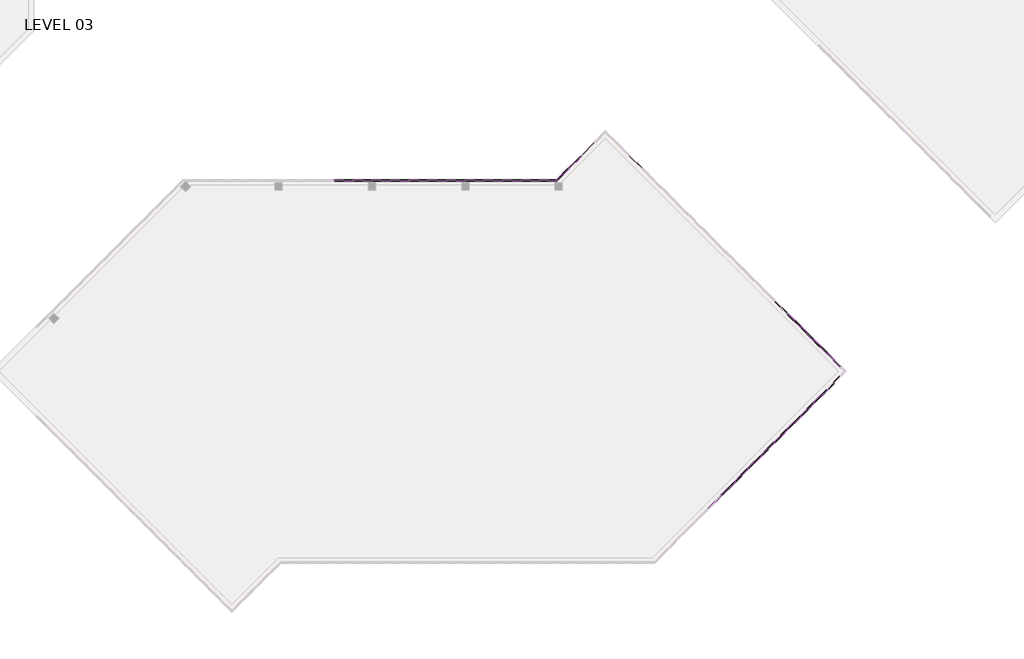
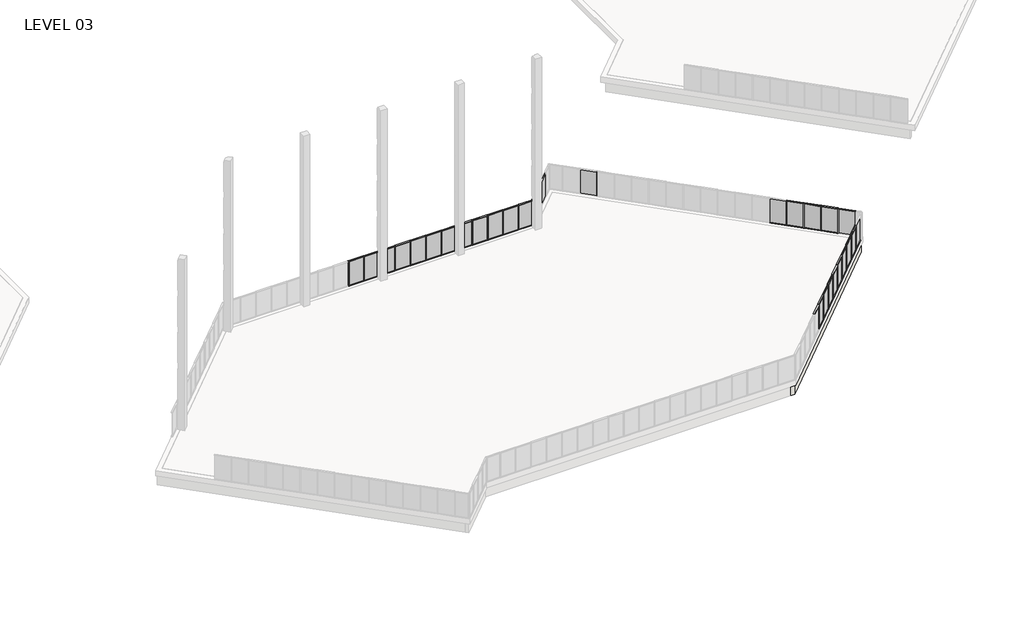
# One storey, part 8 of 18: 81 members, 30 plates, 3 walls.
"""IFC4 building model written with IfcOpenShell, lengths in millimetres."""

from ifc_helpers import new_model, si_unit, origin, place, context, project, spatial, faceted_brep, transform, mapped, element, save
from components import member_5247f267, member_e44af9ab, member_800970d4, member_45eb7f2e, plate_67294edd, plate_9c66726c, plate_129ab9d0

model = new_model("IFC4")

# Units and contexts
model_context = context("Model", 3, world=origin())
ifc_project = project(units=[si_unit("LENGTHUNIT", "METRE", prefix="MILLI")], contexts=[model_context])

# Site, building, storey
site = spatial("IfcSite", under=ifc_project)
building = spatial("IfcBuilding", under=site)
storey = spatial("IfcBuildingStorey", under=building, Name="LEVEL 03", Elevation=8280.4)

# Members
placement = place(None, origin())
member_shape = member_5247f267(model_context)
element("IfcMember", 1, ObjectType="Rectangular Mullion : 2\" x 4.5\" rectangular", at=placement, inside=storey, context=model_context, shape_type="MappedRepresentation", body=[
    mapped(member_shape, transform((22993.35, 26080.1328721, 8280.4), x_axis=(0.0, 0.0, -1.0), y_axis=(0.0, -1.0, 0.0), z_axis=(-1.0, 0.0, 0.0))),
])
element("IfcMember", 2, ObjectType="Rectangular Mullion : 2\" x 4.5\" rectangular", at=placement, inside=storey, context=model_context, shape_type="MappedRepresentation", body=[
    mapped(member_shape, transform((24517.35, 26080.1328721, 8280.4), x_axis=(0.0, 0.0, -1.0), y_axis=(0.0, -1.0, 0.0), z_axis=(-1.0, 0.0, 0.0))),
])
element("IfcMember", 3, ObjectType="Rectangular Mullion : 2\" x 4.5\" rectangular", at=placement, inside=storey, context=model_context, shape_type="MappedRepresentation", body=[
    mapped(member_shape, transform((27565.35, 26080.1328721, 8280.4), x_axis=(0.0, 0.0, -1.0), y_axis=(0.0, -1.0, 0.0), z_axis=(-1.0, 0.0, 0.0))),
])
element("IfcMember", 4, ObjectType="Rectangular Mullion : 2\" x 4.5\" rectangular", at=placement, inside=storey, context=model_context, shape_type="MappedRepresentation", body=[
    mapped(member_shape, transform((29089.35, 26080.1328721, 8280.4), x_axis=(0.0, 0.0, -1.0), y_axis=(0.0, -1.0, 0.0), z_axis=(-1.0, 0.0, 0.0))),
])
element("IfcMember", 5, ObjectType="Rectangular Mullion : 2\" x 4.5\" rectangular", at=placement, inside=storey, context=model_context, shape_type="MappedRepresentation", body=[
    mapped(member_shape, transform((30613.35, 26080.1328721, 8280.4), x_axis=(0.0, 0.0, -1.0), y_axis=(0.0, -1.0, 0.0), z_axis=(-1.0, 0.0, 0.0))),
])
element("IfcMember", 6, ObjectType="Rectangular Mullion : 2\" x 4.5\" rectangular", at=placement, inside=storey, context=model_context, shape_type="MappedRepresentation", body=[
    mapped(member_shape, transform((32137.35, 26080.1328721, 8280.4), x_axis=(0.0, 0.0, -1.0), y_axis=(0.0, -1.0, 0.0), z_axis=(-1.0, 0.0, 0.0))),
])
element("IfcMember", 7, ObjectType="Rectangular Mullion : 2\" x 4.5\" rectangular", at=placement, inside=storey, context=model_context, shape_type="MappedRepresentation", body=[
    mapped(member_shape, transform((35185.35, 26080.1328721, 8280.4), x_axis=(0.0, 0.0, -1.0), y_axis=(0.0, -1.0, 0.0), z_axis=(-1.0, 0.0, 0.0))),
])
element("IfcMember", 8, ObjectType="Rectangular Mullion : 2\" x 4.5\" rectangular", at=placement, inside=storey, context=model_context, shape_type="MappedRepresentation", body=[
    mapped(member_shape, transform((36709.35, 26080.1328721, 8280.4), x_axis=(0.0, 0.0, -1.0), y_axis=(0.0, -1.0, 0.0), z_axis=(-1.0, 0.0, 0.0))),
])
element("IfcMember", 9, ObjectType="Rectangular Mullion : 2\" x 4.5\" rectangular", at=placement, inside=storey, context=model_context, shape_type="MappedRepresentation", body=[
    mapped(member_shape, transform((38233.35, 26080.1328721, 8280.4), x_axis=(0.0, 0.0, -1.0), y_axis=(0.0, -1.0, 0.0), z_axis=(-1.0, 0.0, 0.0))),
])
element("IfcMember", 10, ObjectType="Rectangular Mullion : 2\" x 4.5\" rectangular", at=placement, inside=storey, context=model_context, shape_type="MappedRepresentation", body=[
    mapped(member_shape, transform((55642.3943146, 1508.7210511, 8280.4), x_axis=(0.0, 0.0, -1.0), y_axis=(0.7071067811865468, -0.7071067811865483, 0.0), z_axis=(-0.7071067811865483, -0.7071067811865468, 0.0))),
])
element("IfcMember", 11, ObjectType="Rectangular Mullion : 2\" x 4.5\" rectangular", at=placement, inside=storey, context=model_context, shape_type="MappedRepresentation", body=[
    mapped(member_shape, transform((56720.0250491, 2586.3517856, 8280.4), x_axis=(0.0, 0.0, -1.0), y_axis=(0.7071067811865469, -0.7071067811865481, 0.0), z_axis=(-0.7071067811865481, -0.7071067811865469, 0.0))),
])
element("IfcMember", 12, ObjectType="Rectangular Mullion : 2\" x 4.5\" rectangular", at=placement, inside=storey, context=model_context, shape_type="MappedRepresentation", body=[
    mapped(member_shape, transform((57797.6557836, 3663.9825201, 8280.4), x_axis=(0.0, 0.0, -1.0), y_axis=(0.7071067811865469, -0.7071067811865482, 0.0), z_axis=(-0.7071067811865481, -0.7071067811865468, 0.0))),
])
element("IfcMember", 13, ObjectType="Rectangular Mullion : 2\" x 4.5\" rectangular", at=placement, inside=storey, context=model_context, shape_type="MappedRepresentation", body=[
    mapped(member_shape, transform((63185.8094563, 9052.1361928, 8280.4), x_axis=(0.0, 0.0, -1.0), y_axis=(0.707106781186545, -0.7071067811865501, 0.0), z_axis=(-0.70710678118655, -0.7071067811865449, 0.0))),
])
element("IfcMember", 14, ObjectType="Rectangular Mullion : 2\" x 4.5\" rectangular", at=placement, inside=storey, context=model_context, shape_type="MappedRepresentation", body=[
    mapped(member_shape, transform((63149.7097592, 11972.0792486, 8280.4), x_axis=(0.0, 0.0, -1.0), y_axis=(0.7071067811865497, 0.7071067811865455, 0.0), z_axis=(0.7071067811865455, -0.7071067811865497, 0.0))),
])
element("IfcMember", 15, ObjectType="Rectangular Mullion : 2\" x 4.5\" rectangular", at=placement, inside=storey, context=model_context, shape_type="MappedRepresentation", body=[
    mapped(member_shape, transform((62072.0790246, 13049.7099831, 8280.4), x_axis=(0.0, 0.0, -1.0), y_axis=(0.7071067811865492, 0.7071067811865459, 0.0), z_axis=(0.7071067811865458, -0.7071067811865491, 0.0))),
])
element("IfcMember", 16, ObjectType="Rectangular Mullion : 2\" x 4.5\" rectangular", at=placement, inside=storey, context=model_context, shape_type="MappedRepresentation", body=[
    mapped(member_shape, transform((60994.4482901, 14127.3407176, 8280.4), x_axis=(0.0, 0.0, -1.0), y_axis=(0.7071067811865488, 0.7071067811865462, 0.0), z_axis=(0.7071067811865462, -0.7071067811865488, 0.0))),
])
element("IfcMember", 17, ObjectType="Rectangular Mullion : 2\" x 4.5\" rectangular", at=placement, inside=storey, context=model_context, shape_type="MappedRepresentation", body=[
    mapped(member_shape, transform((54564.7635801, 431.0903165, 8280.4), x_axis=(0.0, 0.0, -1.0), y_axis=(0.7071067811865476, -0.7071067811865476, 0.0), z_axis=(-0.7071067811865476, -0.7071067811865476, 0.0))),
])
element("IfcMember", 18, ObjectType="Rectangular Mullion : 2\" x 4.5\" rectangular", at=placement, inside=storey, context=model_context, shape_type="MappedRepresentation", body=[
    mapped(member_shape, transform((59952.9172527, 5819.2439892, 8280.4), x_axis=(0.0, 0.0, -1.0), y_axis=(0.7071067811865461, -0.7071067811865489, 0.0), z_axis=(-0.7071067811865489, -0.7071067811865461, 0.0))),
])
element("IfcMember", 19, ObjectType="Rectangular Mullion : 2\" x 4.5\" rectangular", at=placement, inside=storey, context=model_context, shape_type="MappedRepresentation", body=[
    mapped(member_shape, transform((58875.2865182, 4741.6132547, 8280.4), x_axis=(0.0, 0.0, -1.0), y_axis=(0.7071067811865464, -0.7071067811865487, 0.0), z_axis=(-0.7071067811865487, -0.7071067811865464, 0.0))),
])
element("IfcMember", 20, ObjectType="Rectangular Mullion : 2\" x 4.5\" rectangular", at=placement, inside=storey, context=model_context, shape_type="MappedRepresentation", body=[
    mapped(member_shape, transform((61030.5479872, 6896.8747237, 8280.4), x_axis=(0.0, 0.0, -1.0), y_axis=(0.7071067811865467, -0.7071067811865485, 0.0), z_axis=(-0.7071067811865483, -0.7071067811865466, 0.0))),
])
element("IfcMember", 21, ObjectType="Rectangular Mullion : 2\" x 4.5\" rectangular", at=placement, inside=storey, context=model_context, shape_type="MappedRepresentation", body=[
    mapped(member_shape, transform((62108.1787218, 7974.5054582, 8280.4), x_axis=(0.0, 0.0, -1.0), y_axis=(0.7071067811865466, -0.7071067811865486, 0.0), z_axis=(-0.7071067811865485, -0.7071067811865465, 0.0))),
])
element("IfcMember", 22, ObjectType="Rectangular Mullion : 2\" x 4.5\" rectangular", at=placement, inside=storey, context=model_context, shape_type="MappedRepresentation", body=[
    mapped(member_shape, transform((59916.8175556, 15204.9714522, 8280.4), x_axis=(0.0, 0.0, -1.0), y_axis=(0.7071067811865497, 0.7071067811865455, 0.0), z_axis=(0.7071067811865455, -0.7071067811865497, 0.0))),
])
element("IfcMember", 23, ObjectType="Rectangular Mullion : 2\" x 4.5\" rectangular", at=placement, inside=storey, context=model_context, shape_type="MappedRepresentation", body=[
    mapped(member_shape, transform((33661.35, 26080.1328721, 8280.4), x_axis=(0.0, 0.0, -1.0), y_axis=(0.0, -1.0, 0.0), z_axis=(-1.0, 0.0, 0.0))),
])
element("IfcMember", 24, ObjectType="Rectangular Mullion : 2\" x 4.5\" rectangular", at=placement, inside=storey, context=model_context, shape_type="MappedRepresentation", body=[
    mapped(member_shape, transform((26041.35, 26080.1328721, 8280.4), x_axis=(0.0, 0.0, -1.0), y_axis=(0.0, -1.0, 0.0), z_axis=(-1.0, 0.0, 0.0))),
])
element("IfcMember", 25, ObjectType="Rectangular Mullion : 2\" x 4.5\" rectangular", at=placement, inside=storey, context=model_context, shape_type="MappedRepresentation", body=[
    mapped(member_shape, transform((24466.55, 26080.1328721, 10871.2), x_axis=(0.0, 0.0, 1.0), y_axis=(0.0, -1.0, 0.0), z_axis=(1.0, 0.0, 0.0))),
])
element("IfcMember", 26, ObjectType="Rectangular Mullion : 2\" x 4.5\" rectangular", at=placement, inside=storey, context=model_context, shape_type="MappedRepresentation", body=[
    mapped(member_shape, transform((27514.55, 26080.1328721, 10871.2), x_axis=(0.0, 0.0, 1.0), y_axis=(0.0, -1.0, 0.0), z_axis=(1.0, 0.0, 0.0))),
])
element("IfcMember", 27, ObjectType="Rectangular Mullion : 2\" x 4.5\" rectangular", at=placement, inside=storey, context=model_context, shape_type="MappedRepresentation", body=[
    mapped(member_shape, transform((29038.55, 26080.1328721, 10871.2), x_axis=(0.0, 0.0, 1.0), y_axis=(0.0, -1.0, 0.0), z_axis=(1.0, 0.0, 0.0))),
])
element("IfcMember", 28, ObjectType="Rectangular Mullion : 2\" x 4.5\" rectangular", at=placement, inside=storey, context=model_context, shape_type="MappedRepresentation", body=[
    mapped(member_shape, transform((30562.55, 26080.1328721, 10871.2), x_axis=(0.0, 0.0, 1.0), y_axis=(0.0, -1.0, 0.0), z_axis=(1.0, 0.0, 0.0))),
])
element("IfcMember", 29, ObjectType="Rectangular Mullion : 2\" x 4.5\" rectangular", at=placement, inside=storey, context=model_context, shape_type="MappedRepresentation", body=[
    mapped(member_shape, transform((32086.55, 26080.1328721, 10871.2), x_axis=(0.0, 0.0, 1.0), y_axis=(0.0, -1.0, 0.0), z_axis=(1.0, 0.0, 0.0))),
])
element("IfcMember", 30, ObjectType="Rectangular Mullion : 2\" x 4.5\" rectangular", at=placement, inside=storey, context=model_context, shape_type="MappedRepresentation", body=[
    mapped(member_shape, transform((35134.55, 26080.1328721, 10871.2), x_axis=(0.0, 0.0, 1.0), y_axis=(0.0, -1.0, 0.0), z_axis=(1.0, 0.0, 0.0))),
])
element("IfcMember", 31, ObjectType="Rectangular Mullion : 2\" x 4.5\" rectangular", at=placement, inside=storey, context=model_context, shape_type="MappedRepresentation", body=[
    mapped(member_shape, transform((36658.55, 26080.1328721, 10871.2), x_axis=(0.0, 0.0, 1.0), y_axis=(0.0, -1.0, 0.0), z_axis=(1.0, 0.0, 0.0))),
])
element("IfcMember", 32, ObjectType="Rectangular Mullion : 2\" x 4.5\" rectangular", at=placement, inside=storey, context=model_context, shape_type="MappedRepresentation", body=[
    mapped(member_shape, transform((38182.55, 26080.1328721, 10871.2), x_axis=(0.0, 0.0, 1.0), y_axis=(0.0, -1.0, 0.0), z_axis=(1.0, 0.0, 0.0))),
])
element("IfcMember", 33, ObjectType="Rectangular Mullion : 2\" x 4.5\" rectangular", at=placement, inside=storey, context=model_context, shape_type="MappedRepresentation", body=[
    mapped(member_shape, transform((39706.55, 26080.1328721, 10871.2), x_axis=(0.0, 0.0, 1.0), y_axis=(0.0, -1.0, 0.0), z_axis=(1.0, 0.0, 0.0))),
])
element("IfcMember", 34, ObjectType="Rectangular Mullion : 2\" x 4.5\" rectangular", at=placement, inside=storey, context=model_context, shape_type="MappedRepresentation", body=[
    mapped(member_shape, transform((55606.4732901, 1472.8000266, 10871.2), x_axis=(0.0, 0.0, 1.0), y_axis=(0.7071067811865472, -0.7071067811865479, 0.0), z_axis=(0.7071067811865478, 0.7071067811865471, 0.0))),
])
element("IfcMember", 35, ObjectType="Rectangular Mullion : 2\" x 4.5\" rectangular", at=placement, inside=storey, context=model_context, shape_type="MappedRepresentation", body=[
    mapped(member_shape, transform((56684.1040246, 2550.4307611, 10871.2), x_axis=(0.0, 0.0, 1.0), y_axis=(0.7071067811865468, -0.7071067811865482, 0.0), z_axis=(0.7071067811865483, 0.7071067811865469, 0.0))),
])
element("IfcMember", 36, ObjectType="Rectangular Mullion : 2\" x 4.5\" rectangular", at=placement, inside=storey, context=model_context, shape_type="MappedRepresentation", body=[
    mapped(member_shape, transform((57761.7347592, 3628.0614956, 10871.2), x_axis=(0.0, 0.0, 1.0), y_axis=(0.7071067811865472, -0.7071067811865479, 0.0), z_axis=(0.7071067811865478, 0.7071067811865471, 0.0))),
])
element("IfcMember", 37, ObjectType="Rectangular Mullion : 2\" x 4.5\" rectangular", at=placement, inside=storey, context=model_context, shape_type="MappedRepresentation", body=[
    mapped(member_shape, transform((63149.8884318, 9016.2151683, 10871.2), x_axis=(0.0, 0.0, 1.0), y_axis=(0.7071067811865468, -0.7071067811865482, 0.0), z_axis=(0.7071067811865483, 0.7071067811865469, 0.0))),
])
element("IfcMember", 38, ObjectType="Rectangular Mullion : 2\" x 4.5\" rectangular", at=placement, inside=storey, context=model_context, shape_type="MappedRepresentation", body=[
    mapped(member_shape, transform((63185.6307836, 11936.1582241, 10871.2), x_axis=(0.0, 0.0, 1.0), y_axis=(0.7071067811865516, 0.7071067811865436, 0.0), z_axis=(-0.7071067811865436, 0.7071067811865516, 0.0))),
])
element("IfcMember", 39, ObjectType="Rectangular Mullion : 2\" x 4.5\" rectangular", at=placement, inside=storey, context=model_context, shape_type="MappedRepresentation", body=[
    mapped(member_shape, transform((62108.0000491, 13013.7889586, 10871.2), x_axis=(0.0, 0.0, 1.0), y_axis=(0.7071067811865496, 0.7071067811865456, 0.0), z_axis=(-0.7071067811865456, 0.7071067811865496, 0.0))),
])
element("IfcMember", 40, ObjectType="Rectangular Mullion : 2\" x 4.5\" rectangular", at=placement, inside=storey, context=model_context, shape_type="MappedRepresentation", body=[
    mapped(member_shape, transform((61030.3693146, 14091.4196932, 10871.2), x_axis=(0.0, 0.0, 1.0), y_axis=(0.7071067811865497, 0.7071067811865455, 0.0), z_axis=(-0.7071067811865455, 0.7071067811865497, 0.0))),
])
element("IfcMember", 41, ObjectType="Rectangular Mullion : 2\" x 4.5\" rectangular", at=placement, inside=storey, context=model_context, shape_type="MappedRepresentation", body=[
    mapped(member_shape, transform((42068.6670699, 27058.5560776, 10871.2), x_axis=(0.0, 0.0, 1.0), y_axis=(-0.7071067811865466, 0.7071067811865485, 0.0), z_axis=(-0.7071067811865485, -0.7071067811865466, 0.0))),
])
element("IfcMember", 42, ObjectType="Rectangular Mullion : 2\" x 4.5\" rectangular", at=placement, inside=storey, context=model_context, shape_type="MappedRepresentation", body=[
    mapped(member_shape, transform((54528.8425556, 395.1692921, 10871.2), x_axis=(0.0, 0.0, 1.0), y_axis=(0.7071067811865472, -0.7071067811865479, 0.0), z_axis=(0.7071067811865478, 0.7071067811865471, 0.0))),
])
element("IfcMember", 43, ObjectType="Rectangular Mullion : 2\" x 4.5\" rectangular", at=placement, inside=storey, context=model_context, shape_type="MappedRepresentation", body=[
    mapped(member_shape, transform((59916.9962282, 5783.3229647, 10871.2), x_axis=(0.0, 0.0, 1.0), y_axis=(0.7071067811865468, -0.7071067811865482, 0.0), z_axis=(0.7071067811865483, 0.7071067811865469, 0.0))),
])
element("IfcMember", 44, ObjectType="Rectangular Mullion : 2\" x 4.5\" rectangular", at=placement, inside=storey, context=model_context, shape_type="MappedRepresentation", body=[
    mapped(member_shape, transform((58839.3654937, 4705.6922302, 10871.2), x_axis=(0.0, 0.0, 1.0), y_axis=(0.7071067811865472, -0.7071067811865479, 0.0), z_axis=(0.7071067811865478, 0.7071067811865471, 0.0))),
])
element("IfcMember", 45, ObjectType="Rectangular Mullion : 2\" x 4.5\" rectangular", at=placement, inside=storey, context=model_context, shape_type="MappedRepresentation", body=[
    mapped(member_shape, transform((60994.6269627, 6860.9536992, 10871.2), x_axis=(0.0, 0.0, 1.0), y_axis=(0.7071067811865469, -0.7071067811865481, 0.0), z_axis=(0.7071067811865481, 0.7071067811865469, 0.0))),
])
element("IfcMember", 46, ObjectType="Rectangular Mullion : 2\" x 4.5\" rectangular", at=placement, inside=storey, context=model_context, shape_type="MappedRepresentation", body=[
    mapped(member_shape, transform((62072.2576973, 7938.5844338, 10871.2), x_axis=(0.0, 0.0, 1.0), y_axis=(0.7071067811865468, -0.7071067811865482, 0.0), z_axis=(0.7071067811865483, 0.7071067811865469, 0.0))),
])
element("IfcMember", 47, ObjectType="Rectangular Mullion : 2\" x 4.5\" rectangular", at=placement, inside=storey, context=model_context, shape_type="MappedRepresentation", body=[
    mapped(member_shape, transform((59952.7385801, 15169.0504277, 10871.2), x_axis=(0.0, 0.0, 1.0), y_axis=(0.7071067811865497, 0.7071067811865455, 0.0), z_axis=(-0.7071067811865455, 0.7071067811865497, 0.0))),
])
element("IfcMember", 48, ObjectType="Rectangular Mullion : 2\" x 4.5\" rectangular", at=placement, inside=storey, context=model_context, shape_type="MappedRepresentation", body=[
    mapped(member_shape, transform((33610.55, 26080.1328721, 10871.2), x_axis=(0.0, 0.0, 1.0), y_axis=(0.0, -1.0, 0.0), z_axis=(1.0, 0.0, 0.0))),
])
element("IfcMember", 49, ObjectType="Rectangular Mullion : 2\" x 4.5\" rectangular", at=placement, inside=storey, context=model_context, shape_type="MappedRepresentation", body=[
    mapped(member_shape, transform((25990.55, 26080.1328721, 10871.2), x_axis=(0.0, 0.0, 1.0), y_axis=(0.0, -1.0, 0.0), z_axis=(1.0, 0.0, 0.0))),
])
member_2_shape = member_e44af9ab(model_context)
element("IfcMember", 50, ObjectType="Rectangular Mullion : 2\" x 4.5\" rectangular", at=placement, inside=storey, context=model_context, shape_type="MappedRepresentation", body=[
    mapped(member_2_shape, transform((22967.95, 26080.1328721, 8280.4), x_axis=(1.0, 0.0, 0.0), y_axis=(0.0, -1.0, 0.0), z_axis=(0.0, 0.0, -1.0))),
])
element("IfcMember", 51, ObjectType="Rectangular Mullion : 2\" x 4.5\" rectangular", at=placement, inside=storey, context=model_context, shape_type="MappedRepresentation", body=[
    mapped(member_2_shape, transform((24491.95, 26080.1328721, 8280.4), x_axis=(1.0, 0.0, 0.0), y_axis=(0.0, -1.0, 0.0), z_axis=(0.0, 0.0, -1.0))),
])
element("IfcMember", 52, ObjectType="Rectangular Mullion : 2\" x 4.5\" rectangular", at=placement, inside=storey, context=model_context, shape_type="MappedRepresentation", body=[
    mapped(member_2_shape, transform((27539.95, 26080.1328721, 8280.4), x_axis=(1.0, 0.0, 0.0), y_axis=(0.0, -1.0, 0.0), z_axis=(0.0, 0.0, -1.0))),
])
element("IfcMember", 53, ObjectType="Rectangular Mullion : 2\" x 4.5\" rectangular", at=placement, inside=storey, context=model_context, shape_type="MappedRepresentation", body=[
    mapped(member_2_shape, transform((29063.95, 26080.1328721, 8280.4), x_axis=(1.0, 0.0, 0.0), y_axis=(0.0, -1.0, 0.0), z_axis=(0.0, 0.0, -1.0))),
])
element("IfcMember", 54, ObjectType="Rectangular Mullion : 2\" x 4.5\" rectangular", at=placement, inside=storey, context=model_context, shape_type="MappedRepresentation", body=[
    mapped(member_2_shape, transform((30587.95, 26080.1328721, 8280.4), x_axis=(1.0, 0.0, 0.0), y_axis=(0.0, -1.0, 0.0), z_axis=(0.0, 0.0, -1.0))),
])
element("IfcMember", 55, ObjectType="Rectangular Mullion : 2\" x 4.5\" rectangular", at=placement, inside=storey, context=model_context, shape_type="MappedRepresentation", body=[
    mapped(member_2_shape, transform((32111.95, 26080.1328721, 8280.4), x_axis=(1.0, 0.0, 0.0), y_axis=(0.0, -1.0, 0.0), z_axis=(0.0, 0.0, -1.0))),
])
element("IfcMember", 56, ObjectType="Rectangular Mullion : 2\" x 4.5\" rectangular", at=placement, inside=storey, context=model_context, shape_type="MappedRepresentation", body=[
    mapped(member_2_shape, transform((35159.95, 26080.1328721, 8280.4), x_axis=(1.0, 0.0, 0.0), y_axis=(0.0, -1.0, 0.0), z_axis=(0.0, 0.0, -1.0))),
])
element("IfcMember", 57, ObjectType="Rectangular Mullion : 2\" x 4.5\" rectangular", at=placement, inside=storey, context=model_context, shape_type="MappedRepresentation", body=[
    mapped(member_2_shape, transform((36683.95, 26080.1328721, 8280.4), x_axis=(1.0, 0.0, 0.0), y_axis=(0.0, -1.0, 0.0), z_axis=(0.0, 0.0, -1.0))),
])
element("IfcMember", 58, ObjectType="Rectangular Mullion : 2\" x 4.5\" rectangular", at=placement, inside=storey, context=model_context, shape_type="MappedRepresentation", body=[
    mapped(member_2_shape, transform((38207.95, 26080.1328721, 8280.4), x_axis=(1.0, 0.0, 0.0), y_axis=(0.0, -1.0, 0.0), z_axis=(0.0, 0.0, -1.0))),
])
element("IfcMember", 59, ObjectType="Rectangular Mullion : 2\" x 4.5\" rectangular", at=placement, inside=storey, context=model_context, shape_type="MappedRepresentation", body=[
    mapped(member_2_shape, transform((39731.95, 26080.1328721, 8280.4), x_axis=(1.0, 0.0, 0.0), y_axis=(0.0, -1.0, 0.0), z_axis=(0.0, 0.0, -1.0))),
])
element("IfcMember", 60, ObjectType="Rectangular Mullion : 2\" x 4.5\" rectangular", at=placement, inside=storey, context=model_context, shape_type="MappedRepresentation", body=[
    mapped(member_2_shape, transform((55624.4338023, 1490.7605388, 8280.4), x_axis=(0.7071067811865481, 0.7071067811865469, 0.0), y_axis=(0.7071067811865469, -0.7071067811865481, 0.0), z_axis=(0.0, 0.0, -1.0))),
])
element("IfcMember", 61, ObjectType="Rectangular Mullion : 2\" x 4.5\" rectangular", at=placement, inside=storey, context=model_context, shape_type="MappedRepresentation", body=[
    mapped(member_2_shape, transform((56702.0645369, 2568.3912734, 8280.4), x_axis=(0.7071067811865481, 0.7071067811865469, 0.0), y_axis=(0.7071067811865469, -0.7071067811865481, 0.0), z_axis=(0.0, 0.0, -1.0))),
])
element("IfcMember", 62, ObjectType="Rectangular Mullion : 2\" x 4.5\" rectangular", at=placement, inside=storey, context=model_context, shape_type="MappedRepresentation", body=[
    mapped(member_2_shape, transform((57779.6952714, 3646.0220079, 8280.4), x_axis=(0.7071067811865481, 0.7071067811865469, 0.0), y_axis=(0.7071067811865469, -0.7071067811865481, 0.0), z_axis=(0.0, 0.0, -1.0))),
])
element("IfcMember", 63, ObjectType="Rectangular Mullion : 2\" x 4.5\" rectangular", at=placement, inside=storey, context=model_context, shape_type="MappedRepresentation", body=[
    mapped(member_2_shape, transform((63167.848944, 9034.1756805, 8280.4), x_axis=(0.7071067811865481, 0.7071067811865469, 0.0), y_axis=(0.7071067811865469, -0.7071067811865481, 0.0), z_axis=(0.0, 0.0, -1.0))),
])
element("IfcMember", 64, ObjectType="Rectangular Mullion : 2\" x 4.5\" rectangular", at=placement, inside=storey, context=model_context, shape_type="MappedRepresentation", body=[
    mapped(member_2_shape, transform((63167.6702714, 11954.1187363, 8280.4), x_axis=(-0.7071067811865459, 0.7071067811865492, 0.0), y_axis=(0.7071067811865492, 0.7071067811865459, 0.0), z_axis=(0.0, 0.0, -1.0))),
])
element("IfcMember", 65, ObjectType="Rectangular Mullion : 2\" x 4.5\" rectangular", at=placement, inside=storey, context=model_context, shape_type="MappedRepresentation", body=[
    mapped(member_2_shape, transform((62090.0395369, 13031.7494709, 8280.4), x_axis=(-0.7071067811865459, 0.7071067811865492, 0.0), y_axis=(0.7071067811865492, 0.7071067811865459, 0.0), z_axis=(0.0, 0.0, -1.0))),
])
element("IfcMember", 66, ObjectType="Rectangular Mullion : 2\" x 4.5\" rectangular", at=placement, inside=storey, context=model_context, shape_type="MappedRepresentation", body=[
    mapped(member_2_shape, transform((61012.4088023, 14109.3802054, 8280.4), x_axis=(-0.7071067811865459, 0.7071067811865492, 0.0), y_axis=(0.7071067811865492, 0.7071067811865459, 0.0), z_axis=(0.0, 0.0, -1.0))),
])
element("IfcMember", 67, ObjectType="Rectangular Mullion : 2\" x 4.5\" rectangular", at=placement, inside=storey, context=model_context, shape_type="MappedRepresentation", body=[
    mapped(member_2_shape, transform((42050.7065576, 27040.5955654, 8280.4), x_axis=(-0.7071067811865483, -0.7071067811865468, 0.0), y_axis=(-0.7071067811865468, 0.7071067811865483, 0.0), z_axis=(0.0, 0.0, -1.0))),
])
element("IfcMember", 68, ObjectType="Rectangular Mullion : 2\" x 4.5\" rectangular", at=placement, inside=storey, context=model_context, shape_type="MappedRepresentation", body=[
    mapped(member_2_shape, transform((54546.8030678, 413.1298043, 8280.4), x_axis=(0.7071067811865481, 0.7071067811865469, 0.0), y_axis=(0.7071067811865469, -0.7071067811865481, 0.0), z_axis=(0.0, 0.0, -1.0))),
])
element("IfcMember", 69, ObjectType="Rectangular Mullion : 2\" x 4.5\" rectangular", at=placement, inside=storey, context=model_context, shape_type="MappedRepresentation", body=[
    mapped(member_2_shape, transform((59934.9567405, 5801.2834769, 8280.4), x_axis=(0.7071067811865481, 0.7071067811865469, 0.0), y_axis=(0.7071067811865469, -0.7071067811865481, 0.0), z_axis=(0.0, 0.0, -1.0))),
])
element("IfcMember", 70, ObjectType="Rectangular Mullion : 2\" x 4.5\" rectangular", at=placement, inside=storey, context=model_context, shape_type="MappedRepresentation", body=[
    mapped(member_2_shape, transform((58857.3260059, 4723.6527424, 8280.4), x_axis=(0.7071067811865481, 0.7071067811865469, 0.0), y_axis=(0.7071067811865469, -0.7071067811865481, 0.0), z_axis=(0.0, 0.0, -1.0))),
])
element("IfcMember", 71, ObjectType="Rectangular Mullion : 2\" x 4.5\" rectangular", at=placement, inside=storey, context=model_context, shape_type="MappedRepresentation", body=[
    mapped(member_2_shape, transform((61012.587475, 6878.9142115, 8280.4), x_axis=(0.7071067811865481, 0.7071067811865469, 0.0), y_axis=(0.7071067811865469, -0.7071067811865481, 0.0), z_axis=(0.0, 0.0, -1.0))),
])
element("IfcMember", 72, ObjectType="Rectangular Mullion : 2\" x 4.5\" rectangular", at=placement, inside=storey, context=model_context, shape_type="MappedRepresentation", body=[
    mapped(member_2_shape, transform((62090.2182095, 7956.544946, 8280.4), x_axis=(0.7071067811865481, 0.7071067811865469, 0.0), y_axis=(0.7071067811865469, -0.7071067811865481, 0.0), z_axis=(0.0, 0.0, -1.0))),
])
element("IfcMember", 73, ObjectType="Rectangular Mullion : 2\" x 4.5\" rectangular", at=placement, inside=storey, context=model_context, shape_type="MappedRepresentation", body=[
    mapped(member_2_shape, transform((59934.7780678, 15187.0109399, 8280.4), x_axis=(-0.7071067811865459, 0.7071067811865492, 0.0), y_axis=(0.7071067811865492, 0.7071067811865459, 0.0), z_axis=(0.0, 0.0, -1.0))),
])
element("IfcMember", 74, ObjectType="Rectangular Mullion : 2\" x 4.5\" rectangular", at=placement, inside=storey, context=model_context, shape_type="MappedRepresentation", body=[
    mapped(member_2_shape, transform((33635.95, 26080.1328721, 8280.4), x_axis=(1.0, 0.0, 0.0), y_axis=(0.0, -1.0, 0.0), z_axis=(0.0, 0.0, -1.0))),
])
element("IfcMember", 75, ObjectType="Rectangular Mullion : 2\" x 4.5\" rectangular", at=placement, inside=storey, context=model_context, shape_type="MappedRepresentation", body=[
    mapped(member_2_shape, transform((26015.95, 26080.1328721, 8280.4), x_axis=(1.0, 0.0, 0.0), y_axis=(0.0, -1.0, 0.0), z_axis=(0.0, 0.0, -1.0))),
])
member_3_shape = member_800970d4(model_context)
element("IfcMember", 76, ObjectType="Rectangular Mullion : 2\" x 4.5\" rectangular", at=placement, inside=storey, context=model_context, shape_type="MappedRepresentation", body=[
    mapped(member_3_shape, transform((41090.2438644, 26080.1328721, 8280.4), x_axis=(1.0, 0.0, 0.0), y_axis=(0.0, -1.0, 0.0), z_axis=(0.0, 0.0, -1.0))),
])
element("IfcMember", 77, ObjectType="Rectangular Mullion : 2\" x 4.5\" rectangular", at=placement, inside=storey, context=model_context, shape_type="MappedRepresentation", body=[
    mapped(member_3_shape, transform((41090.2438644, 26080.1328721, 8280.4), x_axis=(-0.7071067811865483, -0.7071067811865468, 0.0), y_axis=(-0.7071067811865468, 0.7071067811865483, 0.0), z_axis=(0.0, 0.0, -1.0))),
])
member_4_shape = member_45eb7f2e(model_context)
element("IfcMember", 78, ObjectType="Rectangular Mullion : 2\" x 4.5\" rectangular", at=placement, inside=storey, context=model_context, shape_type="MappedRepresentation", body=[
    mapped(member_4_shape, transform((41039.4438644, 26080.1328721, 10871.2), x_axis=(0.0, 0.0, 1.0), y_axis=(0.0, -1.0, 0.0), z_axis=(1.0, 0.0, 0.0))),
])
element("IfcMember", 79, ObjectType="Rectangular Mullion : 2\" x 4.5\" rectangular", at=placement, inside=storey, context=model_context, shape_type="MappedRepresentation", body=[
    mapped(member_4_shape, transform((41126.1648889, 26116.0538966, 10871.2), x_axis=(0.0, 0.0, 1.0), y_axis=(-0.7071067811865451, 0.7071067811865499, 0.0), z_axis=(-0.7071067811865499, -0.7071067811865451, 0.0))),
])
element("IfcMember", 80, ObjectType="Rectangular Mullion : 2\" x 4.5\" rectangular", at=placement, inside=storey, context=model_context, shape_type="MappedRepresentation", body=[
    mapped(member_4_shape, transform((39757.35, 26080.1328721, 8280.4), x_axis=(0.0, 0.0, -1.0), y_axis=(0.0, -1.0, 0.0), z_axis=(-1.0, 0.0, 0.0))),
])
element("IfcMember", 81, ObjectType="Rectangular Mullion : 2\" x 4.5\" rectangular", at=placement, inside=storey, context=model_context, shape_type="MappedRepresentation", body=[
    mapped(member_4_shape, transform((42032.7460454, 27022.6350531, 8280.4), x_axis=(0.0, 0.0, -1.0), y_axis=(-0.7071067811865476, 0.7071067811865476, 0.0), z_axis=(0.7071067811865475, 0.7071067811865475, 0.0))),
])

# Plates
plate_shape = plate_67294edd(model_context)
element("IfcPlate", 82, ObjectType="System Panel : 1/4\" Glass", at=placement, inside=storey, context=model_context, shape_type="MappedRepresentation", body=[
    mapped(plate_shape, transform((23729.95, 26080.1328721, 8331.2), x_axis=(1.0, 0.0, 0.0), y_axis=(0.0, 1.0, 0.0), z_axis=(0.0, 0.0, 1.0))),
])
element("IfcPlate", 83, ObjectType="System Panel : 1/4\" Glass", at=placement, inside=storey, context=model_context, shape_type="MappedRepresentation", body=[
    mapped(plate_shape, transform((25253.95, 26080.1328721, 8331.2), x_axis=(1.0, 0.0, 0.0), y_axis=(0.0, 1.0, 0.0), z_axis=(0.0, 0.0, 1.0))),
])
element("IfcPlate", 84, ObjectType="System Panel : 1/4\" Glass", at=placement, inside=storey, context=model_context, shape_type="MappedRepresentation", body=[
    mapped(plate_shape, transform((28301.95, 26080.1328721, 8331.2), x_axis=(1.0, 0.0, 0.0), y_axis=(0.0, 1.0, 0.0), z_axis=(0.0, 0.0, 1.0))),
])
element("IfcPlate", 85, ObjectType="System Panel : 1/4\" Glass", at=placement, inside=storey, context=model_context, shape_type="MappedRepresentation", body=[
    mapped(plate_shape, transform((29825.95, 26080.1328721, 8331.2), x_axis=(1.0, 0.0, 0.0), y_axis=(0.0, 1.0, 0.0), z_axis=(0.0, 0.0, 1.0))),
])
element("IfcPlate", 86, ObjectType="System Panel : 1/4\" Glass", at=placement, inside=storey, context=model_context, shape_type="MappedRepresentation", body=[
    mapped(plate_shape, transform((31349.95, 26080.1328721, 8331.2), x_axis=(1.0, 0.0, 0.0), y_axis=(0.0, 1.0, 0.0), z_axis=(0.0, 0.0, 1.0))),
])
element("IfcPlate", 87, ObjectType="System Panel : 1/4\" Glass", at=placement, inside=storey, context=model_context, shape_type="MappedRepresentation", body=[
    mapped(plate_shape, transform((32873.95, 26080.1328721, 8331.2), x_axis=(1.0, 0.0, 0.0), y_axis=(0.0, 1.0, 0.0), z_axis=(0.0, 0.0, 1.0))),
])
element("IfcPlate", 88, ObjectType="System Panel : 1/4\" Glass", at=placement, inside=storey, context=model_context, shape_type="MappedRepresentation", body=[
    mapped(plate_shape, transform((35921.95, 26080.1328721, 8331.2), x_axis=(1.0, 0.0, 0.0), y_axis=(0.0, 1.0, 0.0), z_axis=(0.0, 0.0, 1.0))),
])
element("IfcPlate", 89, ObjectType="System Panel : 1/4\" Glass", at=placement, inside=storey, context=model_context, shape_type="MappedRepresentation", body=[
    mapped(plate_shape, transform((37445.95, 26080.1328721, 8331.2), x_axis=(1.0, 0.0, 0.0), y_axis=(0.0, 1.0, 0.0), z_axis=(0.0, 0.0, 1.0))),
])
element("IfcPlate", 90, ObjectType="System Panel : 1/4\" Glass", at=placement, inside=storey, context=model_context, shape_type="MappedRepresentation", body=[
    mapped(plate_shape, transform((38969.95, 26080.1328721, 8331.2), x_axis=(1.0, 0.0, 0.0), y_axis=(0.0, 1.0, 0.0), z_axis=(0.0, 0.0, 1.0))),
])
element("IfcPlate", 91, ObjectType="System Panel : 1/4\" Glass", at=placement, inside=storey, context=model_context, shape_type="MappedRepresentation", body=[
    mapped(plate_shape, transform((56163.2491696, 2029.5759061, 8331.2), x_axis=(0.7071067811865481, 0.7071067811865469, 0.0), y_axis=(-0.7071067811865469, 0.7071067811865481, 0.0), z_axis=(0.0, 0.0, 1.0))),
])
element("IfcPlate", 92, ObjectType="System Panel : 1/4\" Glass", at=placement, inside=storey, context=model_context, shape_type="MappedRepresentation", body=[
    mapped(plate_shape, transform((57240.8799041, 3107.2066406, 8331.2), x_axis=(0.7071067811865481, 0.7071067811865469, 0.0), y_axis=(-0.7071067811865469, 0.7071067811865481, 0.0), z_axis=(0.0, 0.0, 1.0))),
])
element("IfcPlate", 93, ObjectType="System Panel : 1/4\" Glass", at=placement, inside=storey, context=model_context, shape_type="MappedRepresentation", body=[
    mapped(plate_shape, transform((58318.5106387, 4184.8373752, 8331.2), x_axis=(0.7071067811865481, 0.7071067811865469, 0.0), y_axis=(-0.7071067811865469, 0.7071067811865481, 0.0), z_axis=(0.0, 0.0, 1.0))),
])
element("IfcPlate", 94, ObjectType="System Panel : 1/4\" Glass", at=placement, inside=storey, context=model_context, shape_type="MappedRepresentation", body=[
    mapped(plate_shape, transform((63706.6643113, 9572.9910478, 8331.2), x_axis=(0.7071067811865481, 0.7071067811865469, 0.0), y_axis=(-0.7071067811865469, 0.7071067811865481, 0.0), z_axis=(0.0, 0.0, 1.0))),
])
element("IfcPlate", 95, ObjectType="System Panel : 1/4\" Glass", at=placement, inside=storey, context=model_context, shape_type="MappedRepresentation", body=[
    mapped(plate_shape, transform((62628.8549041, 12492.9341036, 8331.2), x_axis=(-0.7071067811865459, 0.7071067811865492, 0.0), y_axis=(-0.7071067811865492, -0.7071067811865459, 0.0), z_axis=(0.0, 0.0, 1.0))),
])
element("IfcPlate", 96, ObjectType="System Panel : 1/4\" Glass", at=placement, inside=storey, context=model_context, shape_type="MappedRepresentation", body=[
    mapped(plate_shape, transform((61551.2241696, 13570.5648381, 8331.2), x_axis=(-0.7071067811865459, 0.7071067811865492, 0.0), y_axis=(-0.7071067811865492, -0.7071067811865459, 0.0), z_axis=(0.0, 0.0, 1.0))),
])
element("IfcPlate", 97, ObjectType="System Panel : 1/4\" Glass", at=placement, inside=storey, context=model_context, shape_type="MappedRepresentation", body=[
    mapped(plate_shape, transform((60473.5934351, 14648.1955727, 8331.2), x_axis=(-0.7071067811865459, 0.7071067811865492, 0.0), y_axis=(-0.7071067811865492, -0.7071067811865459, 0.0), z_axis=(0.0, 0.0, 1.0))),
])
element("IfcPlate", 98, ObjectType="System Panel : 1/4\" Glass", at=placement, inside=storey, context=model_context, shape_type="MappedRepresentation", body=[
    mapped(plate_shape, transform((43667.1526594, 28657.0416672, 8331.2), x_axis=(-0.7071067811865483, -0.7071067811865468, 0.0), y_axis=(0.7071067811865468, -0.7071067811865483, 0.0), z_axis=(0.0, 0.0, 1.0))),
])
element("IfcPlate", 99, ObjectType="System Panel : 1/4\" Glass", at=placement, inside=storey, context=model_context, shape_type="MappedRepresentation", body=[
    mapped(plate_shape, transform((55085.6184351, 951.9451716, 8331.2), x_axis=(0.7071067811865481, 0.7071067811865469, 0.0), y_axis=(-0.7071067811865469, 0.7071067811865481, 0.0), z_axis=(0.0, 0.0, 1.0))),
])
element("IfcPlate", 100, ObjectType="System Panel : 1/4\" Glass", at=placement, inside=storey, context=model_context, shape_type="MappedRepresentation", body=[
    mapped(plate_shape, transform((60473.7721077, 6340.0988442, 8331.2), x_axis=(0.7071067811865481, 0.7071067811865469, 0.0), y_axis=(-0.7071067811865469, 0.7071067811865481, 0.0), z_axis=(0.0, 0.0, 1.0))),
])
element("IfcPlate", 101, ObjectType="System Panel : 1/4\" Glass", at=placement, inside=storey, context=model_context, shape_type="MappedRepresentation", body=[
    mapped(plate_shape, transform((59396.1413732, 5262.4681097, 8331.2), x_axis=(0.7071067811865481, 0.7071067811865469, 0.0), y_axis=(-0.7071067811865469, 0.7071067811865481, 0.0), z_axis=(0.0, 0.0, 1.0))),
])
element("IfcPlate", 102, ObjectType="System Panel : 1/4\" Glass", at=placement, inside=storey, context=model_context, shape_type="MappedRepresentation", body=[
    mapped(plate_shape, transform((61551.4028422, 7417.7295787, 8331.2), x_axis=(0.7071067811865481, 0.7071067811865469, 0.0), y_axis=(-0.7071067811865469, 0.7071067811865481, 0.0), z_axis=(0.0, 0.0, 1.0))),
])
element("IfcPlate", 103, ObjectType="System Panel : 1/4\" Glass", at=placement, inside=storey, context=model_context, shape_type="MappedRepresentation", body=[
    mapped(plate_shape, transform((62629.0335768, 8495.3603133, 8331.2), x_axis=(0.7071067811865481, 0.7071067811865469, 0.0), y_axis=(-0.7071067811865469, 0.7071067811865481, 0.0), z_axis=(0.0, 0.0, 1.0))),
])
element("IfcPlate", 104, ObjectType="System Panel : 1/4\" Glass", at=placement, inside=storey, context=model_context, shape_type="MappedRepresentation", body=[
    mapped(plate_shape, transform((59395.9627005, 15725.8263072, 8331.2), x_axis=(-0.7071067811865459, 0.7071067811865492, 0.0), y_axis=(-0.7071067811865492, -0.7071067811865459, 0.0), z_axis=(0.0, 0.0, 1.0))),
])
element("IfcPlate", 105, ObjectType="System Panel : 1/4\" Glass", at=placement, inside=storey, context=model_context, shape_type="MappedRepresentation", body=[
    mapped(plate_shape, transform((63706.4856387, 11415.3033691, 8331.2), x_axis=(-0.7071067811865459, 0.7071067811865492, 0.0), y_axis=(-0.7071067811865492, -0.7071067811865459, 0.0), z_axis=(0.0, 0.0, 1.0))),
])
element("IfcPlate", 106, ObjectType="System Panel : 1/4\" Glass", at=placement, inside=storey, context=model_context, shape_type="MappedRepresentation", body=[
    mapped(plate_shape, transform((47542.381966, 27579.4070417, 8331.2), x_axis=(-0.7071067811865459, 0.7071067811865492, 0.0), y_axis=(-0.7071067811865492, -0.7071067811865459, 0.0), z_axis=(0.0, 0.0, 1.0))),
])
element("IfcPlate", 107, ObjectType="System Panel : 1/4\" Glass", at=placement, inside=storey, context=model_context, shape_type="MappedRepresentation", body=[
    mapped(plate_shape, transform((42589.5219249, 27579.4109327, 8331.2), x_axis=(-0.7071067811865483, -0.7071067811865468, 0.0), y_axis=(0.7071067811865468, -0.7071067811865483, 0.0), z_axis=(0.0, 0.0, 1.0))),
])
element("IfcPlate", 108, ObjectType="System Panel : 1/4\" Glass", at=placement, inside=storey, context=model_context, shape_type="MappedRepresentation", body=[
    mapped(plate_shape, transform((34397.95, 26080.1328721, 8331.2), x_axis=(1.0, 0.0, 0.0), y_axis=(0.0, 1.0, 0.0), z_axis=(0.0, 0.0, 1.0))),
])
element("IfcPlate", 109, ObjectType="System Panel : 1/4\" Glass", at=placement, inside=storey, context=model_context, shape_type="MappedRepresentation", body=[
    mapped(plate_shape, transform((26777.95, 26080.1328721, 8331.2), x_axis=(1.0, 0.0, 0.0), y_axis=(0.0, 1.0, 0.0), z_axis=(0.0, 0.0, 1.0))),
])
plate_2_shape = plate_9c66726c(model_context)
element("IfcPlate", 110, ObjectType="System Panel : 1/4\" Glass", at=placement, inside=storey, context=model_context, shape_type="MappedRepresentation", body=[
    mapped(plate_2_shape, transform((40398.3969322, 26080.1328721, 8331.2), x_axis=(1.0, 0.0, 0.0), y_axis=(0.0, 1.0, 0.0), z_axis=(0.0, 0.0, 1.0))),
])
plate_3_shape = plate_129ab9d0(model_context)
element("IfcPlate", 111, ObjectType="System Panel : 1/4\" Glass", at=placement, inside=storey, context=model_context, shape_type="MappedRepresentation", body=[
    mapped(plate_3_shape, transform((41579.4554671, 26569.3444749, 8331.2), x_axis=(-0.7071067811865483, -0.7071067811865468, 0.0), y_axis=(0.7071067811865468, -0.7071067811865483, 0.0), z_axis=(0.0, 0.0, 1.0))),
])

# Walls
element("IfcWall", 112, ObjectType="01-CONCRETE-12", at=placement, inside=storey, context=model_context, shape_type="Brep", body=[
    faceted_brep([(10323.8556572, 25730.8828721, 6731.0), (10754.907951, 25730.8828721, 6731.0), (11249.0863917, 25730.8828721, 6731.0), (17964.8977062, 25730.8828721, 6731.0), (18827.0022938, 25730.8828721, 6731.0), (25584.8977062, 25730.8828721, 6731.0), (26447.0022938, 25730.8828721, 6731.0), (33204.8977062, 25730.8828721, 6731.0), (34067.0022938, 25730.8828721, 6731.0), (40866.9818041, 25730.8828721, 6731.0), (41234.907951, 25730.8828721, 6731.0), (41234.907951, 25730.8828721, 7721.6), (40866.9818041, 25730.8828721, 7721.6), (34067.0022938, 25730.8828721, 7721.6), (33204.8977062, 25730.8828721, 7721.6), (26447.0022938, 25730.8828721, 7721.6), (25584.8977062, 25730.8828721, 7721.6), (18827.0022938, 25730.8828721, 7721.6), (17964.8977062, 25730.8828721, 7721.6), (11249.0863917, 25730.8828721, 7721.6), (10754.907951, 25730.8828721, 7721.6), (10323.8556572, 25730.8828721, 7721.6), (10628.6556572, 26035.6828721, 6731.0), (10628.6556572, 26035.6828721, 7721.6), (41108.6556572, 26035.6828721, 7721.6), (41539.707951, 26035.6828721, 7721.6), (41539.707951, 26035.6828721, 6731.0), (41108.6556572, 26035.6828721, 6731.0), (41495.0710245, 25991.0459456, 6731.0), (41495.0710245, 25991.0459456, 7721.6)], [[[0, 1, 2, 3, 4, 5, 6, 7, 8, 9, 10, 11, 12, 13, 14, 15, 16, 17, 18, 19, 20, 21]], [[22, 23, 24, 25, 26, 27]], [[10, 9, 8, 7, 6, 5, 4, 3, 2, 1, 0, 22, 27, 26, 28]], [[21, 20, 19, 18, 17, 16, 15, 14, 13, 12, 11, 29, 25, 24, 23]], [[11, 10, 28, 26, 25, 29]], [[0, 21, 23, 22]]]),
])
element("IfcWall", 113, ObjectType="01-CONCRETE-12", at=placement, inside=storey, context=model_context, shape_type="Brep", body=[
    faceted_brep([(41539.707951, 26035.6828721, 6731.0), (45065.95, 29561.9249211, 6731.0), (45281.4761469, 29777.451068, 6731.0), (45281.4761469, 29777.451068, 7721.6), (45065.95, 29561.9249211, 7721.6), (41539.707951, 26035.6828721, 7721.6), (41108.6556572, 26035.6828721, 6731.0), (41108.6556572, 26035.6828721, 7721.6), (45065.95, 29992.9772149, 7721.6), (45065.95, 29992.9772149, 6731.0)], [[[0, 1, 2, 3, 4, 5]], [[6, 7, 8, 9]], [[2, 1, 0, 6, 9]], [[5, 4, 3, 8, 7]], [[0, 5, 7, 6]], [[3, 2, 9, 8]]]),
])
element("IfcWall", 114, ObjectType="01-CONCRETE-12", at=placement, inside=storey, context=model_context, shape_type="Brep", body=[
    faceted_brep([(64349.3431959, 10709.584019, 6731.0), (64133.817049, 10494.0578721, 6731.0), (59992.6210245, 6352.8618476, 6731.0), (59383.0210245, 5743.2618476, 6731.0), (54604.6460245, 964.8868476, 6731.0), (53995.0460245, 355.2868476, 6731.0), (49246.4289755, -4393.3302013, 6731.0), (48896.992049, -4742.7671279, 6731.0), (48592.192049, -5047.5671279, 6731.0), (48592.192049, -5047.5671279, 7721.6), (48896.992049, -4742.7671279, 7721.6), (49246.4289755, -4393.3302013, 7721.6), (53995.0460245, 355.2868476, 7721.6), (54604.6460245, 964.8868476, 7721.6), (59383.0210245, 5743.2618476, 7721.6), (59992.6210245, 6352.8618476, 7721.6), (64133.817049, 10494.0578721, 7721.6), (64349.3431959, 10709.584019, 7721.6), (64564.8693428, 10494.0578721, 6731.0), (64564.8693428, 10494.0578721, 7721.6), (49023.2443428, -5047.5671279, 7721.6), (49023.2443428, -5047.5671279, 6731.0)], [[[0, 1, 2, 3, 4, 5, 6, 7, 8, 9, 10, 11, 12, 13, 14, 15, 16, 17]], [[18, 19, 20, 21]], [[8, 7, 6, 5, 4, 3, 2, 1, 0, 18, 21]], [[17, 16, 15, 14, 13, 12, 11, 10, 9, 20, 19]], [[9, 8, 21, 20]], [[0, 17, 19, 18]]]),
])

save(model, "model.ifc")
